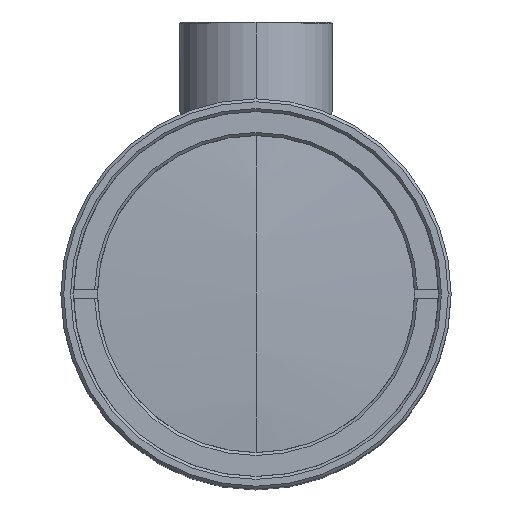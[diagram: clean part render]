
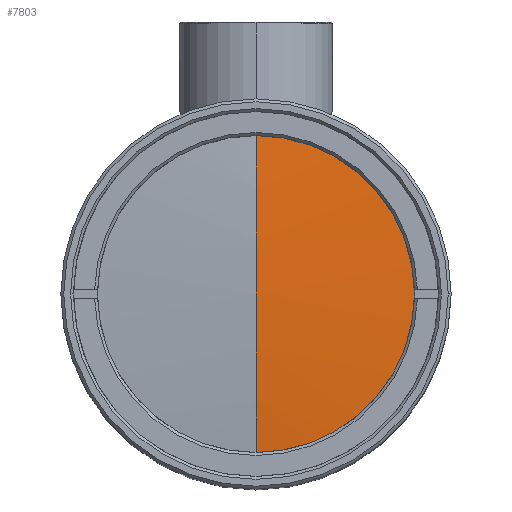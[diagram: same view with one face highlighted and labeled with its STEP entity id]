
A CAD part, top view. The second image highlights one B-rep face of the part: STEP entity #7803.
In plain terms, the highlighted spherical face has radius 167 mm.
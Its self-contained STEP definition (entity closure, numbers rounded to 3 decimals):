
#283 = CARTESIAN_POINT ( 'NONE',  ( 0., -16.242, 74.008 ) ) ;
#660 = EDGE_CURVE ( 'NONE', #1261, #1423, #8139, .T. ) ;
#675 = EDGE_CURVE ( 'NONE', #4356, #2247, #7713, .T. ) ;
#774 = DIRECTION ( 'NONE',  ( 0., 1., 0. ) ) ;
#849 = DIRECTION ( 'NONE',  ( -1., 0., 0. ) ) ;
#1070 = DIRECTION ( 'NONE',  ( -1., 0., 0. ) ) ;
#1261 = VERTEX_POINT ( 'NONE', #9501 ) ;
#1423 = VERTEX_POINT ( 'NONE', #2518 ) ;
#1661 = AXIS2_PLACEMENT_3D ( 'NONE', #7148, #3427, #5573 ) ;
#1838 = FACE_OUTER_BOUND ( 'NONE', #5492, .T. ) ;
#2247 = VERTEX_POINT ( 'NONE', #283 ) ;
#2394 = CARTESIAN_POINT ( 'NONE',  ( 0., 0., 74.8 ) ) ;
#2518 = CARTESIAN_POINT ( 'NONE',  ( 0., 16.242, 74.008 ) ) ;
#2550 = AXIS2_PLACEMENT_3D ( 'NONE', #8331, #5251, #774 ) ;
#3398 = CIRCLE ( 'NONE', #8556, 16.242 ) ;
#3411 = ORIENTED_EDGE ( 'NONE', *, *, #660, .T. ) ;
#3427 = DIRECTION ( 'NONE',  ( 1., 0., 0. ) ) ;
#4029 = CARTESIAN_POINT ( 'NONE',  ( 0., 0., -92.2 ) ) ;
#4356 = VERTEX_POINT ( 'NONE', #2394 ) ;
#4549 = DIRECTION ( 'NONE',  ( 0., 0., 1. ) ) ;
#5251 = DIRECTION ( 'NONE',  ( 1., 0., 0. ) ) ;
#5304 = DIRECTION ( 'NONE',  ( -1., 0., 0. ) ) ;
#5331 = CARTESIAN_POINT ( 'NONE',  ( 0., 0., 74.008 ) ) ;
#5492 = EDGE_LOOP ( 'NONE', ( #6584, #9555, #8968, #3411 ) ) ;
#5573 = DIRECTION ( 'NONE',  ( 0., 1., 0. ) ) ;
#5937 = AXIS2_PLACEMENT_3D ( 'NONE', #4029, #1070, #9468 ) ;
#6584 = ORIENTED_EDGE ( 'NONE', *, *, #6837, .F. ) ;
#6734 = CARTESIAN_POINT ( 'NONE',  ( 0., 0., 74.008 ) ) ;
#6837 = EDGE_CURVE ( 'NONE', #4356, #1423, #8283, .T. ) ;
#7148 = CARTESIAN_POINT ( 'NONE',  ( 0., 0., -92.2 ) ) ;
#7516 = DIRECTION ( 'NONE',  ( 0., 0., 1. ) ) ;
#7526 = EDGE_CURVE ( 'NONE', #2247, #1261, #3398, .T. ) ;
#7713 = CIRCLE ( 'NONE', #2550, 167. ) ;
#7803 = ADVANCED_FACE ( 'NONE', ( #1838 ), #9305, .T. ) ;
#8139 = CIRCLE ( 'NONE', #9398, 16.242 ) ;
#8283 = CIRCLE ( 'NONE', #5937, 167. ) ;
#8331 = CARTESIAN_POINT ( 'NONE',  ( 0., 0., -92.2 ) ) ;
#8556 = AXIS2_PLACEMENT_3D ( 'NONE', #5331, #4549, #849 ) ;
#8968 = ORIENTED_EDGE ( 'NONE', *, *, #7526, .T. ) ;
#9305 = SPHERICAL_SURFACE ( 'NONE', #1661, 167. ) ;
#9398 = AXIS2_PLACEMENT_3D ( 'NONE', #6734, #7516, #5304 ) ;
#9468 = DIRECTION ( 'NONE',  ( 0., 0., 1. ) ) ;
#9501 = CARTESIAN_POINT ( 'NONE',  ( 16.242, 0., 74.008 ) ) ;
#9555 = ORIENTED_EDGE ( 'NONE', *, *, #675, .T. ) ;
